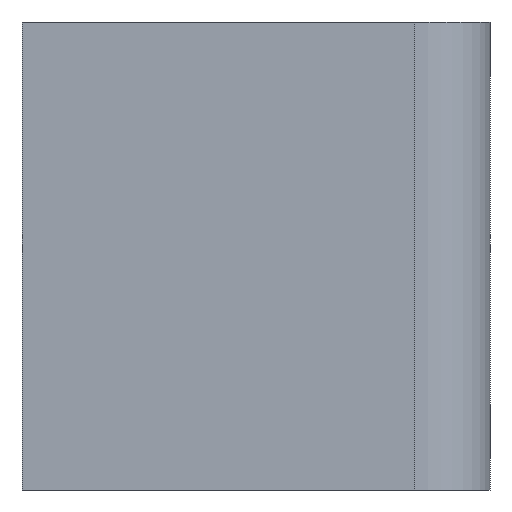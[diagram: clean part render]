
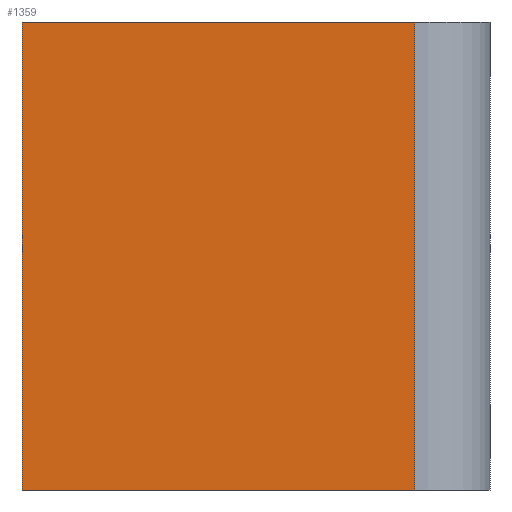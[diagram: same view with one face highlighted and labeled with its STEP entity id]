
A CAD part, front view. The second image highlights one B-rep face of the part: STEP entity #1359.
In plain terms, the highlighted planar face has unit normal (0, -1, 0).
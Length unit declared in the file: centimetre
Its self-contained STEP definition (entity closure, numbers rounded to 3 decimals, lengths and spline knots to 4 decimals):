
#78 = EDGE_CURVE ( 'NONE', #1015, #998, #532, .T. ) ;
#137 = CARTESIAN_POINT ( 'NONE',  ( 0., 0., 0. ) ) ;
#255 = DIRECTION ( 'NONE',  ( 0., 0., 1. ) ) ;
#274 = VECTOR ( 'NONE', #580, 100. ) ;
#275 = VECTOR ( 'NONE', #367, 100. ) ;
#361 = CARTESIAN_POINT ( 'NONE',  ( 839.4037, 0., 1000. ) ) ;
#367 = DIRECTION ( 'NONE',  ( 1., 0., 0. ) ) ;
#417 = CARTESIAN_POINT ( 'NONE',  ( 0., 0., 1000. ) ) ;
#465 = CARTESIAN_POINT ( 'NONE',  ( 0., 0., 1000. ) ) ;
#483 = CARTESIAN_POINT ( 'NONE',  ( 839.4037, 0., 0. ) ) ;
#497 = EDGE_LOOP ( 'NONE', ( #1274, #1395, #1543, #536 ) ) ;
#532 = LINE ( 'NONE', #417, #742 ) ;
#536 = ORIENTED_EDGE ( 'NONE', *, *, #78, .T. ) ;
#570 = CARTESIAN_POINT ( 'NONE',  ( 839.4037, 0., 1000. ) ) ;
#580 = DIRECTION ( 'NONE',  ( 0., 0., 1. ) ) ;
#636 = CARTESIAN_POINT ( 'NONE',  ( 0., 0., 1000. ) ) ;
#725 = EDGE_CURVE ( 'NONE', #1015, #1300, #1518, .T. ) ;
#728 = PLANE ( 'NONE',  #1420 ) ;
#742 = VECTOR ( 'NONE', #926, 100. ) ;
#840 = LINE ( 'NONE', #570, #274 ) ;
#845 = LINE ( 'NONE', #964, #275 ) ;
#865 = EDGE_CURVE ( 'NONE', #1065, #1300, #840, .T. ) ;
#926 = DIRECTION ( 'NONE',  ( 0., 0., -1. ) ) ;
#964 = CARTESIAN_POINT ( 'NONE',  ( 0., 0., 0. ) ) ;
#998 = VERTEX_POINT ( 'NONE', #137 ) ;
#1015 = VERTEX_POINT ( 'NONE', #636 ) ;
#1022 = DIRECTION ( 'NONE',  ( 1., 0., 0. ) ) ;
#1065 = VERTEX_POINT ( 'NONE', #483 ) ;
#1268 = CARTESIAN_POINT ( 'NONE',  ( 0., 0., 1000. ) ) ;
#1274 = ORIENTED_EDGE ( 'NONE', *, *, #1330, .T. ) ;
#1300 = VERTEX_POINT ( 'NONE', #361 ) ;
#1330 = EDGE_CURVE ( 'NONE', #998, #1065, #845, .T. ) ;
#1343 = FACE_OUTER_BOUND ( 'NONE', #497, .T. ) ;
#1359 = ADVANCED_FACE ( 'NONE', ( #1343 ), #728, .F. ) ;
#1395 = ORIENTED_EDGE ( 'NONE', *, *, #865, .T. ) ;
#1420 = AXIS2_PLACEMENT_3D ( 'NONE', #465, #1474, #255 ) ;
#1474 = DIRECTION ( 'NONE',  ( 0., 1., 0. ) ) ;
#1518 = LINE ( 'NONE', #1268, #1523 ) ;
#1523 = VECTOR ( 'NONE', #1022, 100. ) ;
#1543 = ORIENTED_EDGE ( 'NONE', *, *, #725, .F. ) ;
